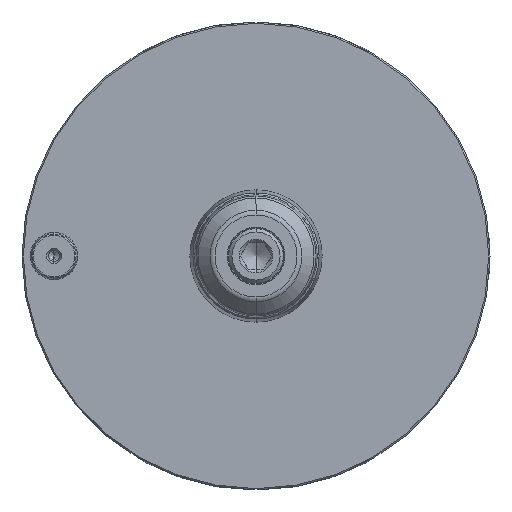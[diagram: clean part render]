
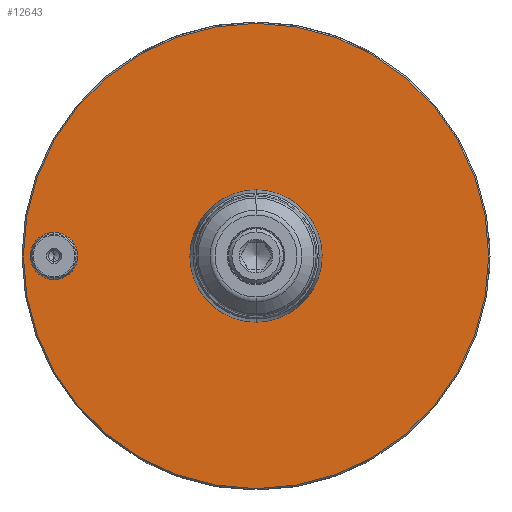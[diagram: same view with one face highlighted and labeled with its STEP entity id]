
A CAD part, left-side view. The second image highlights one B-rep face of the part: STEP entity #12643.
In plain terms, the highlighted planar face has unit normal (-1, 0, 0).
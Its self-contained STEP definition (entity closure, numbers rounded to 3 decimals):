
#54 = AXIS2_PLACEMENT_3D ( 'NONE', #3394, #16740, #6612 ) ;
#337 = CARTESIAN_POINT ( 'NONE',  ( 0., 0., 68.998 ) ) ;
#689 = DIRECTION ( 'NONE',  ( 0., -0.707, -0.707 ) ) ;
#710 = DIRECTION ( 'NONE',  ( -1., 0., 0. ) ) ;
#893 = FACE_BOUND ( 'NONE', #16582, .T. ) ;
#1359 = CARTESIAN_POINT ( 'NONE',  ( 0., 0., 0. ) ) ;
#1467 = VECTOR ( 'NONE', #20812, 1000. ) ;
#1507 = EDGE_CURVE ( 'NONE', #10545, #14129, #15814, .T. ) ;
#1782 = ORIENTED_EDGE ( 'NONE', *, *, #1507, .F. ) ;
#1861 = ORIENTED_EDGE ( 'NONE', *, *, #13360, .T. ) ;
#2315 = ORIENTED_EDGE ( 'NONE', *, *, #17099, .T. ) ;
#3176 = AXIS2_PLACEMENT_3D ( 'NONE', #1359, #11501, #18325 ) ;
#3266 = CARTESIAN_POINT ( 'NONE',  ( 0., 0., -68.998 ) ) ;
#3364 = CARTESIAN_POINT ( 'NONE',  ( 0., -0.102, -69.1 ) ) ;
#3394 = CARTESIAN_POINT ( 'NONE',  ( 0., 0., 0. ) ) ;
#4336 = VECTOR ( 'NONE', #14718, 1000. ) ;
#4418 = CARTESIAN_POINT ( 'NONE',  ( 0., 0., -68.998 ) ) ;
#4555 = CIRCLE ( 'NONE', #16536, 6.4 ) ;
#4645 = VERTEX_POINT ( 'NONE', #7062 ) ;
#5034 = ORIENTED_EDGE ( 'NONE', *, *, #17615, .T. ) ;
#5261 = CIRCLE ( 'NONE', #20760, 69.1 ) ;
#5298 = VECTOR ( 'NONE', #689, 1000. ) ;
#5531 = VERTEX_POINT ( 'NONE', #4418 ) ;
#5713 = PLANE ( 'NONE',  #20385 ) ;
#6274 = DIRECTION ( 'NONE',  ( -1., 0., 0. ) ) ;
#6471 = LINE ( 'NONE', #3266, #4336 ) ;
#6612 = DIRECTION ( 'NONE',  ( 0., 0., 1. ) ) ;
#6650 = EDGE_CURVE ( 'NONE', #13463, #4645, #8703, .T. ) ;
#7055 = DIRECTION ( 'NONE',  ( 0., 0.707, 0.707 ) ) ;
#7062 = CARTESIAN_POINT ( 'NONE',  ( 0., 0.102, 69.1 ) ) ;
#7184 = LINE ( 'NONE', #20497, #5298 ) ;
#7234 = DIRECTION ( 'NONE',  ( -1., 0., 0. ) ) ;
#7424 = ORIENTED_EDGE ( 'NONE', *, *, #19657, .F. ) ;
#7498 = FACE_BOUND ( 'NONE', #18033, .T. ) ;
#7582 = CARTESIAN_POINT ( 'NONE',  ( 0., -4.977, 73.975 ) ) ;
#7604 = DIRECTION ( 'NONE',  ( 0., 0., 1. ) ) ;
#7680 = VERTEX_POINT ( 'NONE', #10594 ) ;
#8125 = EDGE_LOOP ( 'NONE', ( #10816, #1861, #2315, #9146, #5034, #13218 ) ) ;
#8502 = CIRCLE ( 'NONE', #54, 69.1 ) ;
#8703 = LINE ( 'NONE', #337, #10430 ) ;
#8853 = AXIS2_PLACEMENT_3D ( 'NONE', #15510, #17505, #15729 ) ;
#9146 = ORIENTED_EDGE ( 'NONE', *, *, #6650, .T. ) ;
#10430 = VECTOR ( 'NONE', #7055, 1000. ) ;
#10545 = VERTEX_POINT ( 'NONE', #11095 ) ;
#10594 = CARTESIAN_POINT ( 'NONE',  ( 0., 0.102, -69.1 ) ) ;
#10645 = CIRCLE ( 'NONE', #8853, 6.4 ) ;
#10816 = ORIENTED_EDGE ( 'NONE', *, *, #17419, .T. ) ;
#10823 = DIRECTION ( 'NONE',  ( 1., 0., 0. ) ) ;
#11039 = CARTESIAN_POINT ( 'NONE',  ( 0., 12.9, 0. ) ) ;
#11095 = CARTESIAN_POINT ( 'NONE',  ( 0., 0., -12.9 ) ) ;
#11501 = DIRECTION ( 'NONE',  ( -1., 0., 0. ) ) ;
#11758 = CARTESIAN_POINT ( 'NONE',  ( 0., 60., 6.4 ) ) ;
#12124 = CIRCLE ( 'NONE', #14900, 12.9 ) ;
#12434 = CARTESIAN_POINT ( 'NONE',  ( 0., 60., -6.4 ) ) ;
#12437 = LINE ( 'NONE', #7582, #1467 ) ;
#12643 = ADVANCED_FACE ( 'NONE', ( #7498, #893, #20604 ), #5713, .F. ) ;
#13128 = CARTESIAN_POINT ( 'NONE',  ( 0., 0., 68.998 ) ) ;
#13218 = ORIENTED_EDGE ( 'NONE', *, *, #20086, .T. ) ;
#13360 = EDGE_CURVE ( 'NONE', #20117, #20975, #5261, .T. ) ;
#13463 = VERTEX_POINT ( 'NONE', #13128 ) ;
#14129 = VERTEX_POINT ( 'NONE', #20258 ) ;
#14329 = DIRECTION ( 'NONE',  ( 0., 0., 1. ) ) ;
#14446 = VERTEX_POINT ( 'NONE', #11758 ) ;
#14718 = DIRECTION ( 'NONE',  ( 0., -0.707, 0.707 ) ) ;
#14900 = AXIS2_PLACEMENT_3D ( 'NONE', #21147, #6274, #7604 ) ;
#14927 = ORIENTED_EDGE ( 'NONE', *, *, #15252, .F. ) ;
#15252 = EDGE_CURVE ( 'NONE', #14446, #17738, #4555, .T. ) ;
#15510 = CARTESIAN_POINT ( 'NONE',  ( 0., 60., 0. ) ) ;
#15628 = DIRECTION ( 'NONE',  ( 0., 0., -1. ) ) ;
#15729 = DIRECTION ( 'NONE',  ( 0., 0., 1. ) ) ;
#15814 = CIRCLE ( 'NONE', #3176, 12.9 ) ;
#15995 = CARTESIAN_POINT ( 'NONE',  ( 0., 0., 0. ) ) ;
#16536 = AXIS2_PLACEMENT_3D ( 'NONE', #20782, #7234, #19134 ) ;
#16582 = EDGE_LOOP ( 'NONE', ( #7424, #1782 ) ) ;
#16740 = DIRECTION ( 'NONE',  ( -1., 0., 0. ) ) ;
#17099 = EDGE_CURVE ( 'NONE', #20975, #13463, #12437, .T. ) ;
#17419 = EDGE_CURVE ( 'NONE', #5531, #20117, #7184, .T. ) ;
#17505 = DIRECTION ( 'NONE',  ( -1., 0., 0. ) ) ;
#17615 = EDGE_CURVE ( 'NONE', #4645, #7680, #8502, .T. ) ;
#17738 = VERTEX_POINT ( 'NONE', #12434 ) ;
#18001 = EDGE_CURVE ( 'NONE', #17738, #14446, #10645, .T. ) ;
#18033 = EDGE_LOOP ( 'NONE', ( #14927, #21463 ) ) ;
#18325 = DIRECTION ( 'NONE',  ( 0., 0., 1. ) ) ;
#19134 = DIRECTION ( 'NONE',  ( 0., 0., 1. ) ) ;
#19657 = EDGE_CURVE ( 'NONE', #14129, #10545, #12124, .T. ) ;
#20086 = EDGE_CURVE ( 'NONE', #7680, #5531, #6471, .T. ) ;
#20117 = VERTEX_POINT ( 'NONE', #3364 ) ;
#20258 = CARTESIAN_POINT ( 'NONE',  ( 0., 0., 12.9 ) ) ;
#20385 = AXIS2_PLACEMENT_3D ( 'NONE', #11039, #10823, #15628 ) ;
#20497 = CARTESIAN_POINT ( 'NONE',  ( 0., -4.977, -73.975 ) ) ;
#20604 = FACE_OUTER_BOUND ( 'NONE', #8125, .T. ) ;
#20760 = AXIS2_PLACEMENT_3D ( 'NONE', #15995, #710, #14329 ) ;
#20782 = CARTESIAN_POINT ( 'NONE',  ( 0., 60., 0. ) ) ;
#20812 = DIRECTION ( 'NONE',  ( 0., 0.707, -0.707 ) ) ;
#20975 = VERTEX_POINT ( 'NONE', #21365 ) ;
#21147 = CARTESIAN_POINT ( 'NONE',  ( 0., 0., 0. ) ) ;
#21365 = CARTESIAN_POINT ( 'NONE',  ( 0., -0.102, 69.1 ) ) ;
#21463 = ORIENTED_EDGE ( 'NONE', *, *, #18001, .F. ) ;
